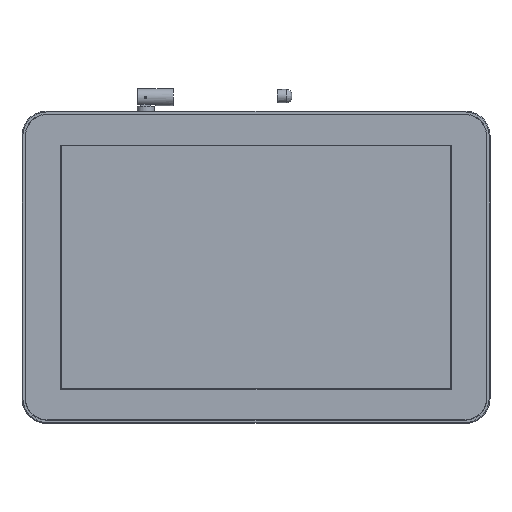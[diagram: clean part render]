
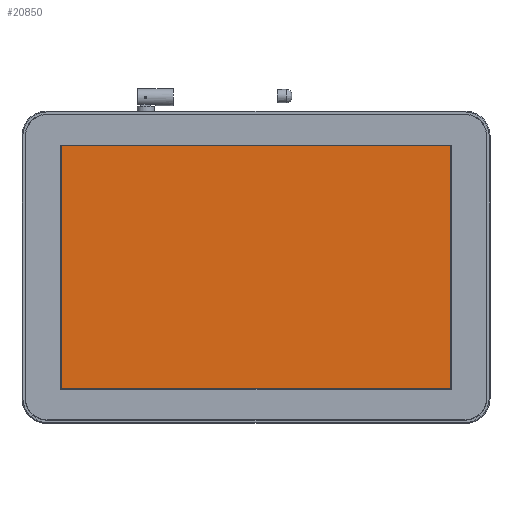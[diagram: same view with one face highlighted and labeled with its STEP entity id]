
A CAD part, top view. The second image highlights one B-rep face of the part: STEP entity #20850.
In plain terms, the highlighted planar face has unit normal (0, 0, 1).
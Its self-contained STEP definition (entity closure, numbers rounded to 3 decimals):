
#1912=FACE_OUTER_BOUND('',#3145,.T.);
#3145=EDGE_LOOP('',(#15633,#15634,#15635,#15636));
#4880=LINE('',#32590,#6964);
#4884=LINE('',#32598,#6968);
#4887=LINE('',#32604,#6971);
#4888=LINE('',#32605,#6972);
#6964=VECTOR('',#26045,10.);
#6968=VECTOR('',#26051,10.);
#6971=VECTOR('',#26056,10.);
#6972=VECTOR('',#26057,10.);
#8960=VERTEX_POINT('',#32588);
#8961=VERTEX_POINT('',#32589);
#8964=VERTEX_POINT('',#32597);
#8966=VERTEX_POINT('',#32603);
#11348=EDGE_CURVE('',#8960,#8961,#4880,.T.);
#11352=EDGE_CURVE('',#8961,#8964,#4884,.T.);
#11355=EDGE_CURVE('',#8960,#8966,#4887,.T.);
#11356=EDGE_CURVE('',#8966,#8964,#4888,.T.);
#15633=ORIENTED_EDGE('',*,*,#11355,.T.);
#15634=ORIENTED_EDGE('',*,*,#11356,.T.);
#15635=ORIENTED_EDGE('',*,*,#11352,.F.);
#15636=ORIENTED_EDGE('',*,*,#11348,.F.);
#18769=PLANE('',#22313);
#20850=ADVANCED_FACE('',(#1912),#18769,.T.);
#22313=AXIS2_PLACEMENT_3D('',#32602,#26054,#26055);
#26045=DIRECTION('',(1.,0.,0.));
#26051=DIRECTION('',(0.,-1.,0.));
#26054=DIRECTION('center_axis',(0.,0.,
1.));
#26055=DIRECTION('ref_axis',(0.,1.,0.));
#26056=DIRECTION('',(0.,-1.,0.));
#26057=DIRECTION('',(1.,0.,0.));
#32588=CARTESIAN_POINT('',(-108.48,67.8,0.));
#32589=CARTESIAN_POINT('',(108.48,67.8,0.));
#32590=CARTESIAN_POINT('',(-108.48,67.8,0.));
#32597=CARTESIAN_POINT('',(108.48,-67.8,0.));
#32598=CARTESIAN_POINT('',(108.48,67.8,0.));
#32602=CARTESIAN_POINT('Origin',(-112.819,-70.512,0.));
#32603=CARTESIAN_POINT('',(-108.48,-67.8,0.));
#32604=CARTESIAN_POINT('',(-108.48,67.8,0.));
#32605=CARTESIAN_POINT('',(-108.48,-67.8,0.));
